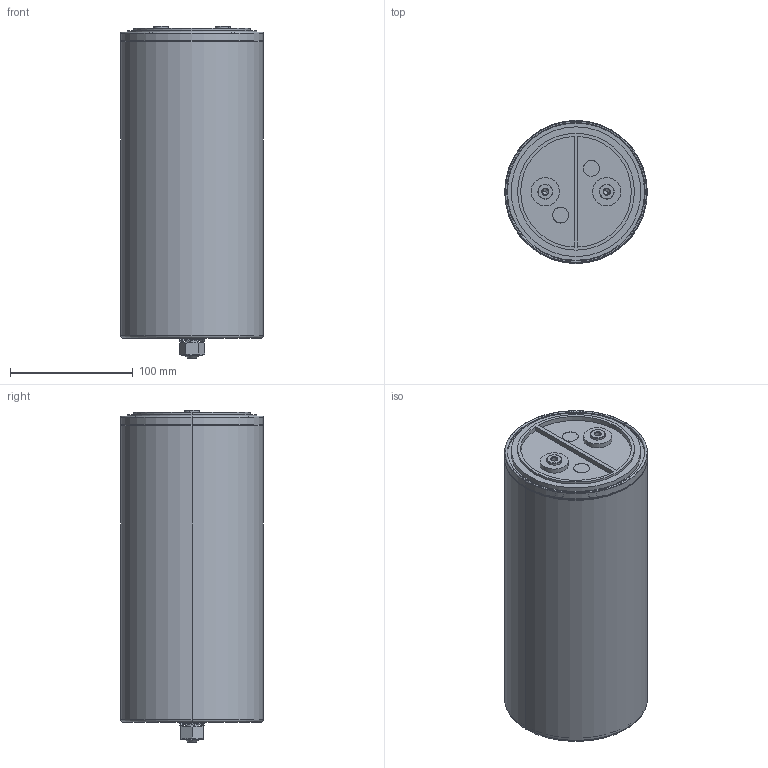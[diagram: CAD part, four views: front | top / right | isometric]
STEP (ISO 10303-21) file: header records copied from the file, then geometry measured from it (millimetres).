
FILE_DESCRIPTION (( 'STEP AP203' ), '1' );
FILE_NAME ('B25620Bx_116x248_254.STEP', '2021-07-01T05:36:09', ( '' ), ( '' ), 'SwSTEP 2.0', 'SolidWorks 2017', '' );
FILE_SCHEMA (( 'CONFIG_CONTROL_DESIGN' ));
Length unit declared in the file: millimetre
Products named in the file (1): B25620Bx_116x248_254
Bounding box: 116 x 116 x 270 mm (x, y, z)
Volume: 143674.3 mm3; surface area: 232687.9 mm2
Topology: 2 solids, 15 shells, 283 faces, 620 edges, 392 vertices
Faces by surface type: plane 113, cylinder 80, bspline 50, cone 22, torus 18
Entity records: 8809 total; most frequent: CARTESIAN_POINT 2696, ORIENTED_EDGE 1232, DIRECTION 1210, EDGE_CURVE 616, AXIS2_PLACEMENT_3D 456, VERTEX_POINT 392, EDGE_LOOP 314, VECTOR 298
